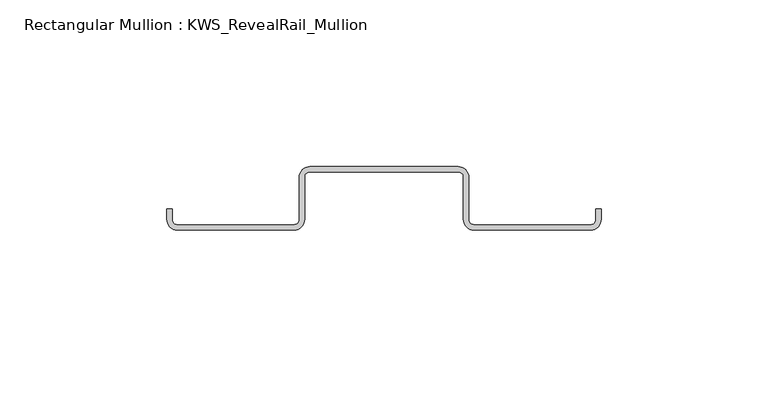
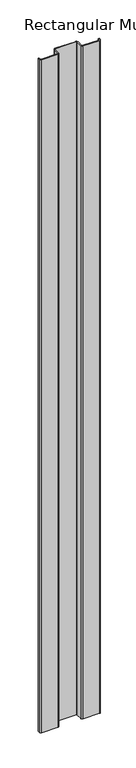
"""IFC4 building model written with IfcOpenShell, lengths in millimetres: member geometry, Rectangular Mullion : KWS_RevealRail_Mullion."""

import ifcopenshell
import ifcopenshell.guid

model = None  # the IFC model being written
_history = None  # IfcOwnerHistory: only IFC2X3 demands one
_inside = {}  # id of a spatial element -> (the spatial element, [elements in it])
_under = {}  # id of a project, library or spatial element -> (it, [spatial elements below it])
_declared = {}  # id of a project -> (the project, [libraries it declares])
_typed = {}  # id of a type object -> (the type object, [elements of that type])
_made_of = {}  # id of a material, layer set ... -> (it, [elements and type objects made of it])


def new_model(schema):
    """Start an empty IFC model of exactly this schema.

    Asked for "IFC4X3", IfcOpenShell would pick the latest addendum, in which some entities
    have other attributes; the version numbers below select the first issue.
    IFC2X3 requires an IfcOwnerHistory on every rooted entity: one is made here for all.
    """
    global model, _history
    if schema == "IFC4X3":
        model = ifcopenshell.file(schema_version=(4, 3, 0, 0))
    else:
        model = ifcopenshell.file(schema=schema)
    _inside.clear()
    _under.clear()
    _declared.clear()
    _typed.clear()
    _made_of.clear()
    _history = None
    if model.schema == "IFC2X3":
        org = make("IfcOrganization", Name="unknown")
        user = make(
            "IfcPersonAndOrganization",
            ThePerson=make("IfcPerson", FamilyName="unknown"),
            TheOrganization=org,
        )
        app = make(
            "IfcApplication",
            ApplicationDeveloper=org,
            Version="unknown",
            ApplicationFullName="unknown",
            ApplicationIdentifier="unknown",
        )
        _history = make(
            "IfcOwnerHistory",
            OwningUser=user,
            OwningApplication=app,
            ChangeAction="ADDED",
            CreationDate=0,
        )
    return model


def make(cls, **values):
    """One entity of the class cls with the attributes given. An attribute that is None is left unset."""
    return model.create_entity(
        cls, **{name: value for name, value in values.items() if value is not None}
    )


def rooted(cls, **values):
    """An entity with a GlobalId (a new one), such as an element, a storey or a relation."""
    return make(cls, GlobalId=ifcopenshell.guid.new(), OwnerHistory=_history, **values)


def si_unit(unit_type, name, prefix=None):
    """IfcSIUnit, for example si_unit("LENGTHUNIT", "METRE", prefix="MILLI")."""
    return make("IfcSIUnit", UnitType=unit_type, Prefix=prefix, Name=name)


def assignment(units):
    """IfcUnitAssignment: the units of a project."""
    return None if units is None else make("IfcUnitAssignment", Units=units)


def point(xyz):
    """IfcCartesianPoint."""
    return None if xyz is None else make("IfcCartesianPoint", Coordinates=xyz)


def direction(xyz):
    """IfcDirection."""
    return None if xyz is None else make("IfcDirection", DirectionRatios=xyz)


def frame(location, z_axis=None, x_axis=None):
    """IfcAxis2Placement3D, a coordinate frame: its origin and axes. An axis left out is left unset."""
    return make(
        "IfcAxis2Placement3D",
        Location=point(location),
        Axis=direction(z_axis),
        RefDirection=direction(x_axis),
    )


def frame_2d(location, x_axis=None):
    """IfcAxis2Placement2D, a coordinate frame in the plane: its origin and x axis."""
    return make(
        "IfcAxis2Placement2D", Location=point(location), RefDirection=direction(x_axis)
    )


def origin():
    """The frame at (0, 0, 0) with its axes left unset."""
    return frame((0.0, 0.0, 0.0))


def place(relative_to, where):
    """IfcLocalPlacement: puts the frame where relative to a parent placement (None: the world)."""
    return make(
        "IfcLocalPlacement", PlacementRelTo=relative_to, RelativePlacement=where
    )


def context(
    kind, dimensions, precision=None, world=None, true_north=None, identifier=None
):
    """IfcGeometricRepresentationContext, for example the 3D "Model" context."""
    return make(
        "IfcGeometricRepresentationContext",
        ContextIdentifier=identifier,
        ContextType=kind,
        CoordinateSpaceDimension=dimensions,
        Precision=precision,
        WorldCoordinateSystem=world,
        TrueNorth=true_north,
    )


def project(units=None, contexts=None):
    """IfcProject with its units and contexts."""
    return rooted(
        "IfcProject",
        Name="project",
        RepresentationContexts=contexts,
        UnitsInContext=assignment(units),
    )


def spatial(cls, under=None, at=None, **own):
    """A site, building, storey or space (cls), placed at a placement, below another one or the project."""
    s = rooted(cls, ObjectPlacement=at, **own)
    if under is not None:
        _under.setdefault(under.id(), (under, []))[1].append(s)
    return s


def polyline(points):
    """IfcPolyline through the points."""
    return make("IfcPolyline", Points=[point(p) for p in points])


def circle_curve(where, radius):
    """IfcCircle in the frame where."""
    return make("IfcCircle", Position=where, Radius=radius)


def trimmed(basis, trim1, trim2, sense, master):
    """IfcTrimmedCurve: the piece of a basis curve between two trims."""
    return make(
        "IfcTrimmedCurve",
        BasisCurve=basis,
        Trim1=trim1,
        Trim2=trim2,
        SenseAgreement=sense,
        MasterRepresentation=master,
    )


def segment(curve, same_sense, transition):
    """IfcCompositeCurveSegment."""
    return make(
        "IfcCompositeCurveSegment",
        Transition=transition,
        SameSense=same_sense,
        ParentCurve=curve,
    )


def composite_curve(segments, self_intersect=None):
    """IfcCompositeCurve: segments joined end to end."""
    return make("IfcCompositeCurve", Segments=segments, SelfIntersect=self_intersect)


def outline(outer, holes=None, kind="AREA"):
    """IfcArbitraryClosedProfileDef: a profile drawn as a closed curve; with holes, ...WithVoids."""
    if holes is None:
        return make("IfcArbitraryClosedProfileDef", ProfileType=kind, OuterCurve=outer)
    return make(
        "IfcArbitraryProfileDefWithVoids",
        ProfileType=kind,
        OuterCurve=outer,
        InnerCurves=holes,
    )


def extrude(swept, where, along, depth):
    """IfcExtrudedAreaSolid: the profile swept, set in the frame where, extruded along a direction by depth."""
    return make(
        "IfcExtrudedAreaSolid",
        SweptArea=swept,
        Position=where,
        ExtrudedDirection=direction(along),
        Depth=depth,
    )


def shape(context_of_items, identifier, shape_type, items):
    """IfcShapeRepresentation: the items that make up one representation, for example the "Body"."""
    return make(
        "IfcShapeRepresentation",
        ContextOfItems=context_of_items,
        RepresentationIdentifier=identifier,
        RepresentationType=shape_type,
        Items=items,
    )


def source(mapping_origin, context_of_items, identifier, shape_type, items):
    """IfcRepresentationMap: a shape defined once, which mapped items show again and again."""
    return make(
        "IfcRepresentationMap",
        MappingOrigin=mapping_origin,
        MappedRepresentation=shape(context_of_items, identifier, shape_type, items),
    )


def transform(
    local_origin,
    x_axis=None,
    y_axis=None,
    z_axis=None,
    scale=None,
    scale2=None,
    scale3=None,
    uniform=True,
):
    """IfcCartesianTransformationOperator3D, or its non-uniform kind. x_axis, y_axis, z_axis: its Axis1, 2, 3."""
    if uniform:
        return make(
            "IfcCartesianTransformationOperator3D",
            Axis1=direction(x_axis),
            Axis2=direction(y_axis),
            LocalOrigin=point(local_origin),
            Scale=scale,
            Axis3=direction(z_axis),
        )
    return make(
        "IfcCartesianTransformationOperator3DnonUniform",
        Axis1=direction(x_axis),
        Axis2=direction(y_axis),
        LocalOrigin=point(local_origin),
        Scale=scale,
        Axis3=direction(z_axis),
        Scale2=scale2,
        Scale3=scale3,
    )


def mapped(mapping_source, mapping_target):
    """IfcMappedItem: shows the shape of a source again, moved by a transform."""
    return make(
        "IfcMappedItem", MappingSource=mapping_source, MappingTarget=mapping_target
    )


def made_of(thing, what):
    """Note that an element or type object is made of a material, layer set ...; save() writes the relation."""
    if what is not None:
        _made_of.setdefault(what.id(), (what, []))[1].append(thing)
    return thing


def element(
    cls,
    number,
    at=None,
    inside=None,
    cuts=None,
    type_object=None,
    material=None,
    context=None,
    identifier="Body",
    shape_type=None,
    held_by="IfcProductDefinitionShape",
    body=None,
    shapes=None,
    **own,
):
    """One element of the class cls, such as IfcWall. Its Tag is "e" and its number.

    at: its placement. inside: the storey or other place that contains it. cuts: it is an
    opening in that element (IfcRelVoidsElement). A single representation is given by context,
    identifier, shape_type and body (its items); several are given by shapes. held_by: the class
    of the entity that holds the representations. save() writes the other relations.
    """
    e = rooted(cls, Tag="e%d" % number, ObjectPlacement=at, **own)
    if body is not None:
        shapes = [shape(context, identifier, shape_type, body)]
    if shapes is not None:
        e.Representation = make(held_by, Representations=shapes)
    if inside is not None:
        _inside.setdefault(inside.id(), (inside, []))[1].append(e)
    if cuts is not None:
        rooted(
            "IfcRelVoidsElement", RelatingBuildingElement=cuts, RelatedOpeningElement=e
        )
    if type_object is not None:
        _typed.setdefault(type_object.id(), (type_object, []))[1].append(e)
    return made_of(e, material)


def aggregate(whole, parts):
    """IfcRelAggregates: a whole, such as a stair, and the parts it consists of."""
    return rooted("IfcRelAggregates", RelatingObject=whole, RelatedObjects=parts)


def save(model, path):
    """Write the relations noted so far, then the file.

    IfcRelAggregates (storeys below a building ...), IfcRelContainedInSpatialStructure (elements
    in a storey), IfcRelDefinesByType, IfcRelAssociatesMaterial and IfcRelDeclares: one each for
    every whole, place, type object, material and project.
    """
    for whole, parts in _under.values():
        aggregate(whole, parts)
    for where, things in _inside.values():
        rooted(
            "IfcRelContainedInSpatialStructure",
            RelatedElements=things,
            RelatingStructure=where,
        )
    for kind, things in _typed.values():
        rooted("IfcRelDefinesByType", RelatedObjects=things, RelatingType=kind)
    for what, things in _made_of.values():
        rooted("IfcRelAssociatesMaterial", RelatedObjects=things, RelatingMaterial=what)
    for by, libraries in _declared.values():
        rooted("IfcRelDeclares", RelatingContext=by, RelatedDefinitions=libraries)
    model.write(path)


def rectangular_mullion_kws_revealrail_mullion_9bbd98a8(model_context):
    return source(origin(), model_context, "Body", "SweptSolid", [
        extrude(outline(composite_curve([segment(polyline([(-65.0875, -15.8115), (-65.0875, -12.6365), (-63.5, -12.6365), (-63.5, -15.8115)]), True, "CONTINUOUS"), segment(trimmed(circle_curve(frame_2d((-61.9125, -15.8115)), 1.5875), [point((-63.5, -15.8115))], [point((-61.9125, -17.399))], True, "CARTESIAN"), True, "CONTINUOUS"), segment(polyline([(-61.9125, -17.399), (-26.9875, -17.399)]), True, "CONTINUOUS"), segment(trimmed(circle_curve(frame_2d((-26.9875, -15.8115)), 1.5875), [point((-26.9875, -17.399))], [point((-25.4, -15.8115))], True, "CARTESIAN"), True, "CONTINUOUS"), segment(polyline([(-25.4, -15.8115), (-25.4, -3.1115)]), True, "CONTINUOUS"), segment(trimmed(circle_curve(frame_2d((-22.225, -3.1115)), 3.175), [point((-25.4, -3.1115))], [point((-22.225, 0.0635))], False, "CARTESIAN"), True, "CONTINUOUS"), segment(polyline([(-22.225, 0.0635), (22.225, 0.0635)]), True, "CONTINUOUS"), segment(trimmed(circle_curve(frame_2d((22.225, -3.1115)), 3.175), [point((22.225, 0.0635))], [point((25.4, -3.1115))], False, "CARTESIAN"), True, "CONTINUOUS"), segment(polyline([(25.4, -3.1115), (25.4, -15.8115)]), True, "CONTINUOUS"), segment(trimmed(circle_curve(frame_2d((26.9875, -15.8115)), 1.5875), [point((25.4, -15.8115))], [point((26.9875, -17.399))], True, "CARTESIAN"), True, "CONTINUOUS"), segment(polyline([(26.9875, -17.399), (61.9125, -17.399)]), True, "CONTINUOUS"), segment(trimmed(circle_curve(frame_2d((61.9125, -15.8115)), 1.5875), [point((61.9125, -17.399))], [point((63.5, -15.8115))], True, "CARTESIAN"), True, "CONTINUOUS"), segment(polyline([(63.5, -15.8115), (63.5, -12.6365), (65.0875, -12.6365), (65.0875, -15.8115)]), True, "CONTINUOUS"), segment(trimmed(circle_curve(frame_2d((61.9125, -15.8115)), 3.175), [point((65.0875, -15.8115))], [point((61.9125, -18.9865))], False, "CARTESIAN"), True, "CONTINUOUS"), segment(polyline([(61.9125, -18.9865), (26.9875, -18.9865)]), True, "CONTINUOUS"), segment(trimmed(circle_curve(frame_2d((26.9875, -15.8115)), 3.175), [point((26.9875, -18.9865))], [point((23.8125, -15.8115))], False, "CARTESIAN"), True, "CONTINUOUS"), segment(polyline([(23.8125, -15.8115), (23.8125, -3.1115)]), True, "CONTINUOUS"), segment(trimmed(circle_curve(frame_2d((22.225, -3.1115)), 1.5875), [point((23.8125, -3.1115))], [point((22.225, -1.524))], True, "CARTESIAN"), True, "CONTINUOUS"), segment(polyline([(22.225, -1.524), (-22.225, -1.524)]), True, "CONTINUOUS"), segment(trimmed(circle_curve(frame_2d((-22.225, -3.1115)), 1.5875), [point((-22.225, -1.524))], [point((-23.8125, -3.1115))], True, "CARTESIAN"), True, "CONTINUOUS"), segment(polyline([(-23.8125, -3.1115), (-23.8125, -15.8115)]), True, "CONTINUOUS"), segment(trimmed(circle_curve(frame_2d((-26.9875, -15.8115)), 3.175), [point((-23.8125, -15.8115))], [point((-26.9875, -18.9865))], False, "CARTESIAN"), True, "CONTINUOUS"), segment(polyline([(-26.9875, -18.9865), (-61.9125, -18.9865)]), True, "CONTINUOUS"), segment(trimmed(circle_curve(frame_2d((-61.9125, -15.8115)), 3.175), [point((-61.9125, -18.9865))], [point((-65.0875, -15.8115))], False, "CARTESIAN"), True, "CONTINUOUS")], self_intersect=False)), frame((0.0, 0.0, -1524.0000003), z_axis=(0.0, 0.0, 1.0), x_axis=(1.0, 0.0, 0.0)), (0.0, 0.0, 1.0), 1524.0000003),
    ])


if __name__ == "__main__":
    model = new_model("IFC4")
    model_context = context("Model", 3, world=origin())
    ifc_project = project(units=[si_unit("LENGTHUNIT", "METRE", prefix="MILLI")], contexts=[model_context])
    site = spatial("IfcSite", under=ifc_project)
    building = spatial("IfcBuilding", under=site)
    placement = place(None, origin())
    rectangular_mullion_kws_revealrail_mullion_shape = rectangular_mullion_kws_revealrail_mullion_9bbd98a8(model_context)
    element("IfcMember", 1, ObjectType="Rectangular Mullion : KWS_RevealRail_Mullion", at=placement, inside=building, context=model_context, shape_type="MappedRepresentation", body=[
        mapped(rectangular_mullion_kws_revealrail_mullion_shape, transform((0.0, 0.0, 0.0), x_axis=(1.0, 0.0, 0.0), y_axis=(0.0, 1.0, 0.0), z_axis=(0.0, 0.0, 1.0))),
    ])
    save(model, "model.ifc")
